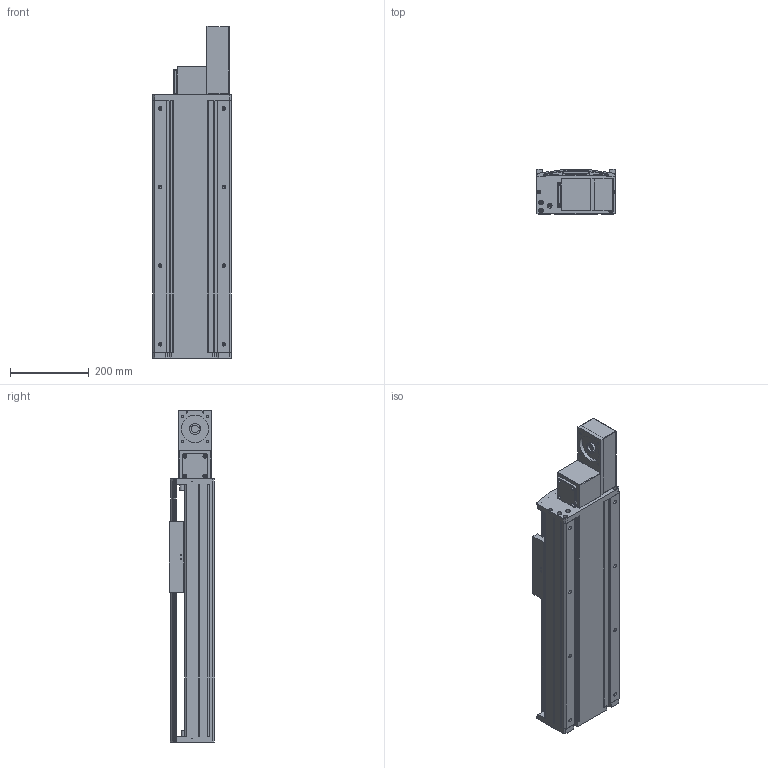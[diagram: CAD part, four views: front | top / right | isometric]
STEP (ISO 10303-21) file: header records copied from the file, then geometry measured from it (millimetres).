
FILE_DESCRIPTION(/* description */ (''),/* implementation_level */ '2;1');
FILE_NAME(/* name */ 'TKB200-FL-400_asm1.stp',/* time_stamp */ '2016-05-18T11:05:34+08:00',/* author */ (''),/* organization */ (''),/* preprocessor_version */ 'ST-DEVELOPER v15',/* originating_system */ 'SIEMENS PLM Software NX 8.5',/* authorisation */ '');
FILE_SCHEMA (('AUTOMOTIVE_DESIGN { 1 0 10303 214 3 1 1 1 }'));
Length unit declared in the file: millimetre
Products named in the file (3): 200-2; 200-1; TKB200-FL-400_asm1
Assembly tree (2 placements, depth 2):
  TKB200-FL-400_asm1
    200-1
    200-2
Bounding box: 200 x 115 x 845 mm (x, y, z)
Volume: 5298502.7 mm3; surface area: 1569171 mm2
Topology: 2 solids, 3 shells, 982 faces, 2734 edges, 1756 vertices
Faces by surface type: plane 459, cylinder 437, cone 70, bspline 16
Full cylindrical faces by diameter (mm): 2.5 x2, 3.3 x16, 4.3 x4, 4.5 x8, 5 x2, 6.6 x34, 6.8 x8, 8 x6, 9 x16, 10 x4, 11 x22, 12 x16, 14 x8, 36 x1, 42 x2, 75 x1
Entity records: 32613 total; most frequent: CARTESIAN_POINT 8147, DIRECTION 5052, ORIENTED_EDGE 4856, EDGE_CURVE 2428, AXIS2_PLACEMENT_3D 1833, VERTEX_POINT 1672, LINE 1386, VECTOR 1386
